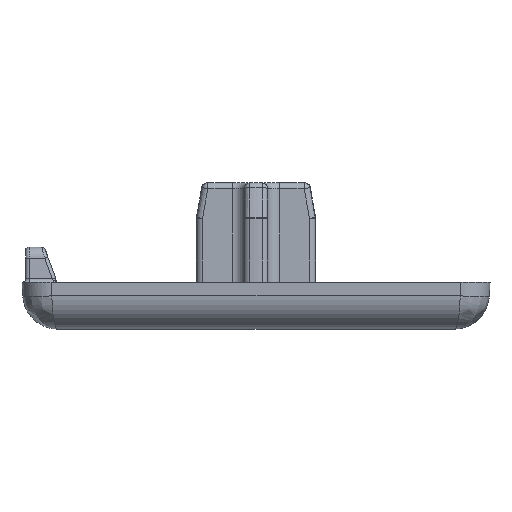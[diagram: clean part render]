
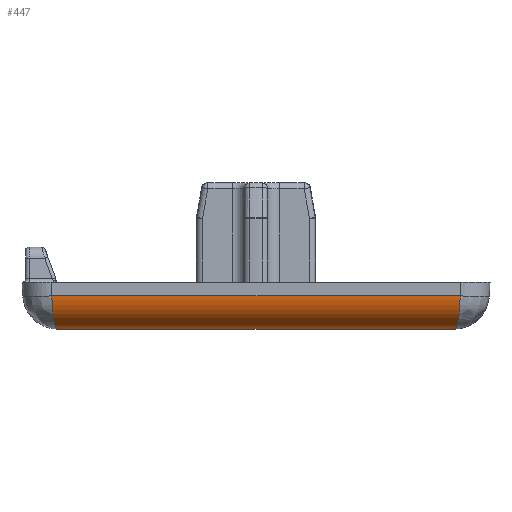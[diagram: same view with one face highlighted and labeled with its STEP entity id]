
A CAD part, front view. The second image highlights one B-rep face of the part: STEP entity #447.
In plain terms, the highlighted cylindrical face has radius 3 mm (diameter 6 mm), a partial arc.
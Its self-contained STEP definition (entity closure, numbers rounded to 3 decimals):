
#65 = CARTESIAN_POINT ( 'NONE',  ( -17.443, -19.939, 2.843 ) ) ;
#322 = DIRECTION ( 'NONE',  ( -1., 0., 0. ) ) ;
#447 = ADVANCED_FACE ( 'NONE', ( #3083 ), #1181, .T. ) ;
#524 = CARTESIAN_POINT ( 'NONE',  ( -20., -16.943, 3. ) ) ;
#677 = CARTESIAN_POINT ( 'NONE',  ( -20., -19.939, 2.843 ) ) ;
#774 = CARTESIAN_POINT ( 'NONE',  ( -16.943, -16.943, 0. ) ) ;
#903 = CARTESIAN_POINT ( 'NONE',  ( 16.943, -16.943, 0. ) ) ;
#1034 = ORIENTED_EDGE ( 'NONE', *, *, #2933, .T. ) ;
#1181 = CYLINDRICAL_SURFACE ( 'NONE', #7760, 3. ) ;
#1487 = ORIENTED_EDGE ( 'NONE', *, *, #1757, .F. ) ;
#1757 = EDGE_CURVE ( 'NONE', #6102, #2723, #8086, .T. ) ;
#2723 = VERTEX_POINT ( 'NONE', #6678 ) ;
#2800 = CARTESIAN_POINT ( 'NONE',  ( -17.224, -18.629, 0. ) ) ;
#2845 = CARTESIAN_POINT ( 'NONE',  ( 17.428, -19.851, 1.16 ) ) ;
#2933 = EDGE_CURVE ( 'NONE', #3022, #2723, #5884, .T. ) ;
#3022 = VERTEX_POINT ( 'NONE', #4311 ) ;
#3083 = FACE_OUTER_BOUND ( 'NONE', #4175, .T. ) ;
#3472 = CARTESIAN_POINT ( 'NONE',  ( 17.224, -18.629, 0. ) ) ;
#3530 = VECTOR ( 'NONE', #6299, 1000. ) ;
#4175 = EDGE_LOOP ( 'NONE', ( #1034, #1487, #6792, #4713 ) ) ;
#4311 = CARTESIAN_POINT ( 'NONE',  ( 16.943, -16.943, 0. ) ) ;
#4524 = DIRECTION ( 'NONE',  ( -1., 0., 0. ) ) ;
#4713 = ORIENTED_EDGE ( 'NONE', *, *, #7965, .F. ) ;
#5019 = CARTESIAN_POINT ( 'NONE',  ( 20., -16.943, 0. ) ) ;
#5640 = CARTESIAN_POINT ( 'NONE',  ( -16.943, -16.943, 0. ) ) ;
#5884 =( BOUNDED_CURVE ( )  B_SPLINE_CURVE ( 3, ( #903, #3472, #2845, #8271 ),
 .UNSPECIFIED., .F., .T. ) 
 B_SPLINE_CURVE_WITH_KNOTS ( ( 4, 4 ),
 ( 1.571, 3.089 ),
 .UNSPECIFIED. ) 
 CURVE ( )  GEOMETRIC_REPRESENTATION_ITEM ( )  RATIONAL_B_SPLINE_CURVE ( ( 1., 0.817, 0.817, 1. ) ) 
 REPRESENTATION_ITEM ( '' )  );
#6102 = VERTEX_POINT ( 'NONE', #8633 ) ;
#6135 = CARTESIAN_POINT ( 'NONE',  ( -17.428, -19.851, 1.16 ) ) ;
#6299 = DIRECTION ( 'NONE',  ( 1., 0., 0. ) ) ;
#6678 = CARTESIAN_POINT ( 'NONE',  ( 17.443, -19.939, 2.843 ) ) ;
#6792 = ORIENTED_EDGE ( 'NONE', *, *, #7790, .F. ) ;
#7184 =( BOUNDED_CURVE ( )  B_SPLINE_CURVE ( 3, ( #774, #2800, #6135, #65 ),
 .UNSPECIFIED., .F., .T. ) 
 B_SPLINE_CURVE_WITH_KNOTS ( ( 4, 4 ),
 ( 1.571, 3.089 ),
 .UNSPECIFIED. ) 
 CURVE ( )  GEOMETRIC_REPRESENTATION_ITEM ( )  RATIONAL_B_SPLINE_CURVE ( ( 1., 0.817, 0.817, 1. ) ) 
 REPRESENTATION_ITEM ( '' )  );
#7222 = DIRECTION ( 'NONE',  ( 0., 0., 1. ) ) ;
#7454 = VECTOR ( 'NONE', #322, 1000. ) ;
#7760 = AXIS2_PLACEMENT_3D ( 'NONE', #524, #4524, #7222 ) ;
#7790 = EDGE_CURVE ( 'NONE', #8261, #6102, #7184, .T. ) ;
#7965 = EDGE_CURVE ( 'NONE', #3022, #8261, #8441, .T. ) ;
#8086 = LINE ( 'NONE', #677, #3530 ) ;
#8261 = VERTEX_POINT ( 'NONE', #5640 ) ;
#8271 = CARTESIAN_POINT ( 'NONE',  ( 17.443, -19.939, 2.843 ) ) ;
#8441 = LINE ( 'NONE', #5019, #7454 ) ;
#8633 = CARTESIAN_POINT ( 'NONE',  ( -17.443, -19.939, 2.843 ) ) ;
